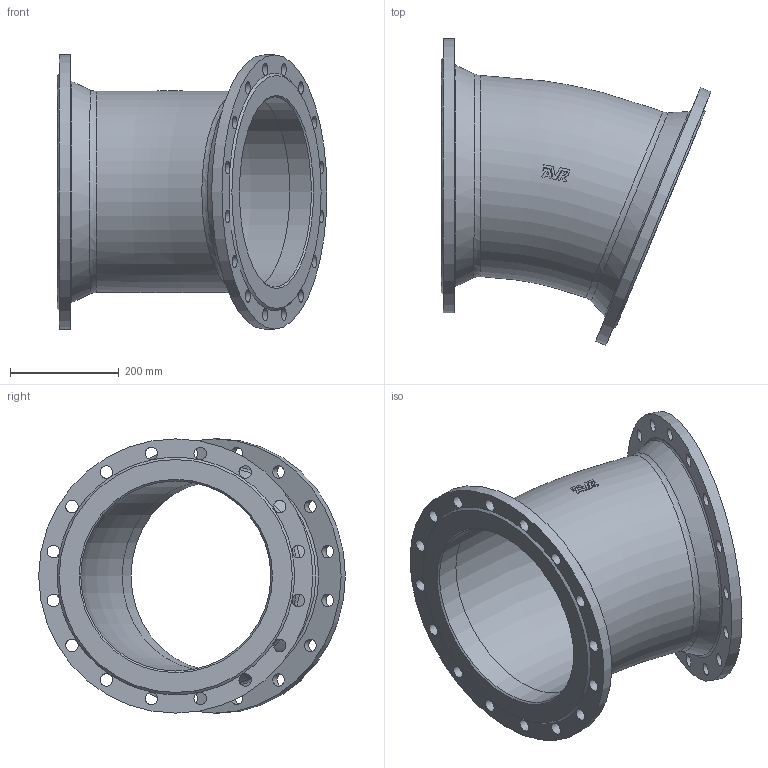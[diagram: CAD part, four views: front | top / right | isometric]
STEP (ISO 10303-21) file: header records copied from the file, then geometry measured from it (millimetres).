
FILE_DESCRIPTION (( 'STEP AP203' ), '1' );
FILE_NAME ('O_712_0210_DN350_0X_REV01.step', '2024-08-15T12:18:07', ( '' ), ( '' ), 'SwSTEP 2.0', 'SolidWorks 2022', '' );
FILE_SCHEMA (( 'CONFIG_CONTROL_DESIGN' ));
Length unit declared in the file: millimetre
Products named in the file (1): O_712_0210_DN350_0X_REV01
Bounding box: 496.95 x 564.61 x 505 mm (x, y, z)
Volume: 9616290.9 mm3; surface area: 1329977.5 mm2
Topology: 1 solids, 1 shells, 95 faces, 317 edges, 200 vertices
Faces by surface type: plane 41, cylinder 38, torus 8, cone 6, bspline 2
Full cylindrical faces by diameter (mm): 23 x32, 350 x2, 505 x2
Entity records: 5089 total; most frequent: CARTESIAN_POINT 2692, ORIENTED_EDGE 454, DIRECTION 449, EDGE_CURVE 227, AXIS2_PLACEMENT_3D 206, EDGE_LOOP 185, VERTEX_POINT 158, FACE_OUTER_BOUND 137
